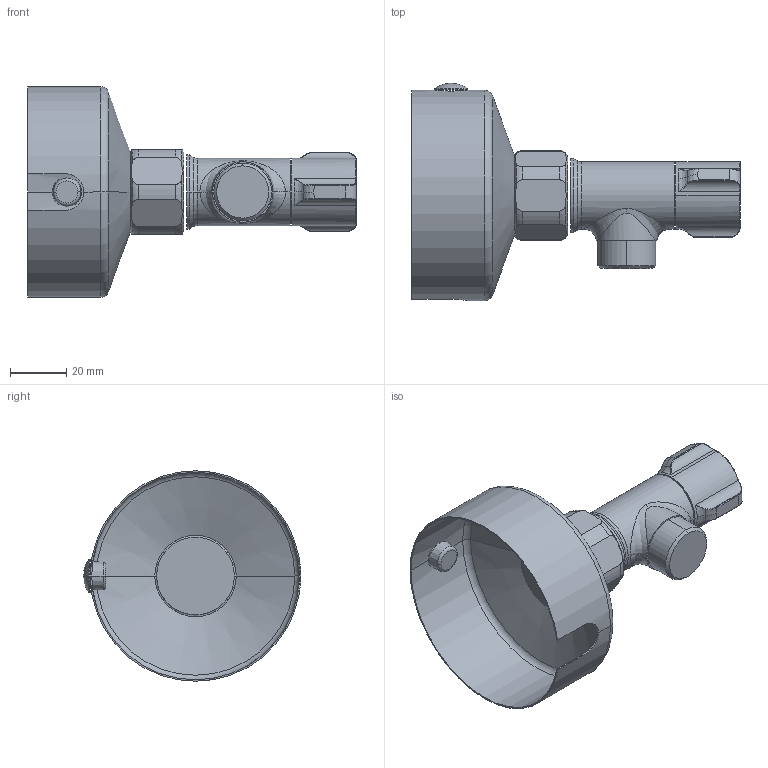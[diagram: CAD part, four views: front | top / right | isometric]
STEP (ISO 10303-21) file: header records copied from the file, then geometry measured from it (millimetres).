
FILE_DESCRIPTION((''),'2;1');
FILE_NAME('48757--','2026-10-14T10:29:06',('simi1'),(''),'CREO PARAMETRIC BY PTC INC, 2022244','CREO PARAMETRIC BY PTC INC, 2022244','');
FILE_SCHEMA(('CONFIG_CONTROL_DESIGN'));
Length unit declared in the file: millimetre
Products named in the file (1): 48757--
Bounding box: 117.14 x 77.5 x 75 mm (x, y, z)
Surface area: 32660.2 mm2 (no closed solid volume)
Topology: 0 solids, 8 shells, 167 faces, 403 edges, 242 vertices
Faces by surface type: torus 41, cylinder 40, bspline 40, plane 28, cone 16, sphere 2
Entity records: 7798 total; most frequent: CARTESIAN_POINT 4194, ORIENTED_EDGE 782, DIRECTION 705, EDGE_CURVE 401, AXIS2_PLACEMENT_3D 310, VERTEX_POINT 242, CIRCLE 183, EDGE_LOOP 167
